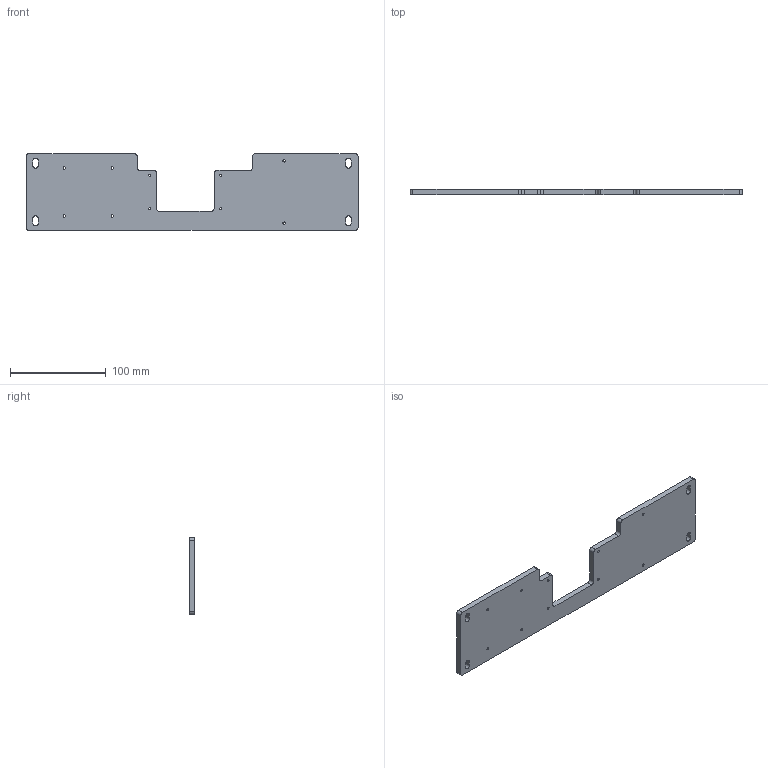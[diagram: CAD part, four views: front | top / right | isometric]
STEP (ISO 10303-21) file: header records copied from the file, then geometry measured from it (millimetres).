
FILE_DESCRIPTION(/* description */ (''),/* implementation_level */ '2;1');
FILE_NAME(/* name */ 'CWC-CY0010-P99_Groundplate.stp',/* time_stamp */ '2026-03-31T15:47:57+02:00',/* author */ (''),/* organization */ (''),/* preprocessor_version */ 'ST-DEVELOPER v18.1',/* originating_system */ 'SIEMENS PLM Software NX 1988',/* authorisation */ '');
FILE_SCHEMA (('AUTOMOTIVE_DESIGN { 1 0 10303 214 3 1 1 1 }'));
Length unit declared in the file: millimetre
Products named in the file (1): anto91C06C61rmxg
Bounding box: 346 x 6 x 80 mm (x, y, z)
Volume: 136608.9 mm3; surface area: 52401.5 mm2
Topology: 1 solids, 1 shells, 62 faces, 184 edges, 124 vertices
Faces by surface type: cylinder 40, plane 22
Full cylindrical faces by diameter (mm): 2.5 x4
Entity records: 2152 total; most frequent: DIRECTION 382, CARTESIAN_POINT 359, ORIENTED_EDGE 352, EDGE_CURVE 176, AXIS2_PLACEMENT_3D 143, VERTEX_POINT 120, LINE 96, VECTOR 96
